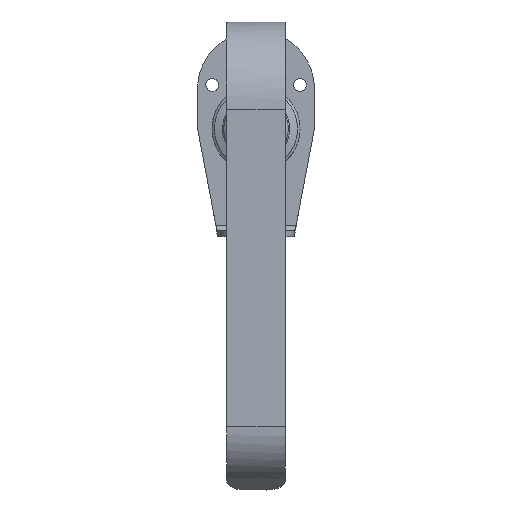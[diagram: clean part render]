
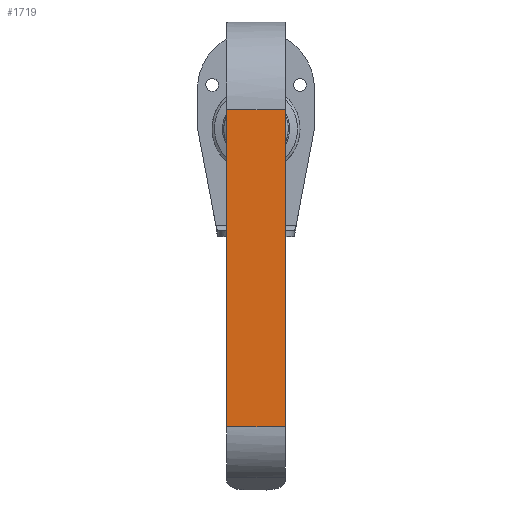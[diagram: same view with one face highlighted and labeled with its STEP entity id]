
A CAD part, top view. The second image highlights one B-rep face of the part: STEP entity #1719.
In plain terms, the highlighted free-form (B-spline) face has degree [1, 1] with [2, 2] control points.
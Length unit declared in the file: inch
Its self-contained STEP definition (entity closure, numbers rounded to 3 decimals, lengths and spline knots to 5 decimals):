
#1684=CARTESIAN_POINT('F12',(9.2511,5.10428,0.0)
   );
#1685=CARTESIAN_POINT('F12',(3.83363,5.10428,0.0)
   );
#1686=CARTESIAN_POINT('F12',(9.2511,5.10428,1.0)
   );
#1687=CARTESIAN_POINT('F12',(3.83363,5.10428,1.0)
   );
#1688=B_SPLINE_SURFACE_WITH_KNOTS('F12',1,1,((#1684,#1686),(#1685,
   #1687)),.PLANE_SURF.,.F.,.F.,.U.,(2,2),(2,2),(0.0,
   5.41747),(0.0,1.0),.UNSPECIFIED.);
#1689=CARTESIAN_POINT('V14',(9.2511,5.10428,0.0)
   );
#1690=VERTEX_POINT('V14',#1689);
#1691=CARTESIAN_POINT('V13',(3.83363,5.10428,0.0)
   );
#1692=VERTEX_POINT('V13',#1691);
#1693=CARTESIAN_POINT('E13',(9.2511,5.10428,0.0)
   );
#1694=CARTESIAN_POINT('E13',(3.83363,5.10428,0.0)
   );
#1695=QUASI_UNIFORM_CURVE('E13',1,(#1693,#1694),.POLYLINE_FORM.,.F.,
   .U.);
#1696=EDGE_CURVE('E13',#1690,#1692,#1695,.T.);
#1697=ORIENTED_EDGE('E13',*,*,#1696,.T.);
#1698=CARTESIAN_POINT('V10',(3.83363,5.10428,1.0)
   );
#1699=VERTEX_POINT('V10',#1698);
#1700=CARTESIAN_POINT('E36',(3.83363,5.10428,0.0)
   );
#1701=CARTESIAN_POINT('E36',(3.83363,5.10428,1.0)
   );
#1702=QUASI_UNIFORM_CURVE('E36',1,(#1700,#1701),.POLYLINE_FORM.,.F.,
   .U.);
#1703=EDGE_CURVE('E36',#1692,#1699,#1702,.T.);
#1704=ORIENTED_EDGE('E36',*,*,#1703,.T.);
#1705=CARTESIAN_POINT('V9',(9.2511,5.10428,1.0)
   );
#1706=VERTEX_POINT('V9',#1705);
#1707=CARTESIAN_POINT('E9',(3.83363,5.10428,1.0)
   );
#1708=CARTESIAN_POINT('E9',(9.2511,5.10428,1.0)
   );
#1709=QUASI_UNIFORM_CURVE('E9',1,(#1707,#1708),.POLYLINE_FORM.,.F.,
   .U.);
#1710=EDGE_CURVE('E9',#1699,#1706,#1709,.T.);
#1711=ORIENTED_EDGE('E9',*,*,#1710,.T.);
#1712=CARTESIAN_POINT('E37',(9.2511,5.10428,1.0)
   );
#1713=CARTESIAN_POINT('E37',(9.2511,5.10428,0.0)
   );
#1714=QUASI_UNIFORM_CURVE('E37',1,(#1712,#1713),.POLYLINE_FORM.,.F.,
   .U.);
#1715=EDGE_CURVE('E37',#1706,#1690,#1714,.T.);
#1716=ORIENTED_EDGE('E37',*,*,#1715,.T.);
#1717=EDGE_LOOP('F12',(#1697,#1704,#1711,#1716));
#1718=FACE_OUTER_BOUND('F12',#1717,.T.);
#1719=ADVANCED_FACE('F12',(#1718),#1688,.T.);
